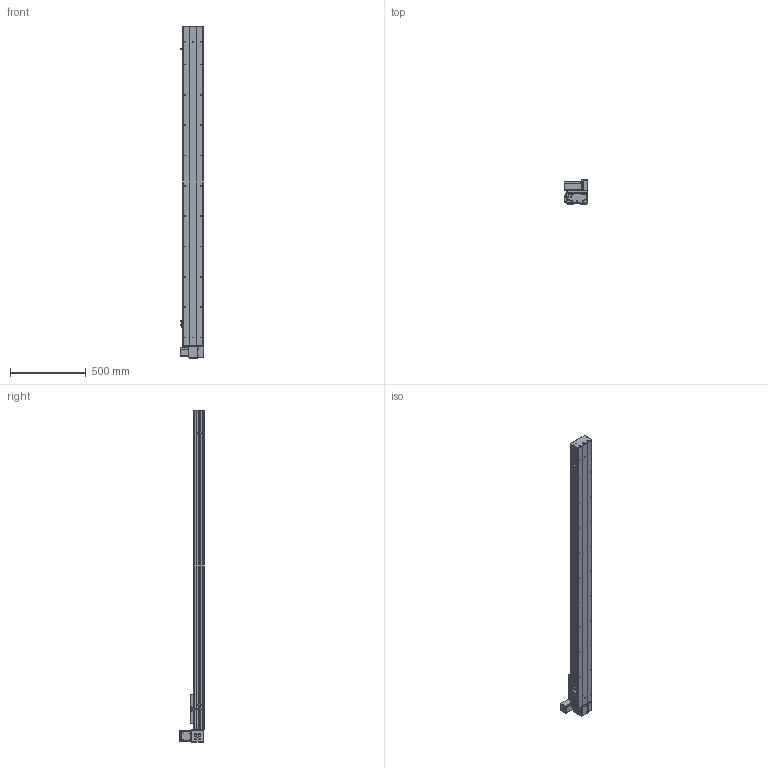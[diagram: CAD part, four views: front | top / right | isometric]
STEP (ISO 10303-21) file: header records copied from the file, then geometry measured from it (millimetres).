
FILE_DESCRIPTION (( 'STEP AP203' ), '1' );
FILE_NAME ('Y135CB-D90-S1800-UL-P400W.STEP', '2020-02-18T07:44:40', ( '微软用户' ), ( '微软中国' ), 'SwSTEP 2.0', 'SolidWorks 2017', '' );
FILE_SCHEMA (( 'CONFIG_CONTROL_DESIGN' ));
Length unit declared in the file: millimetre
Products named in the file (18): 5C--俋欶; 0B-源倛裔啣; C-雄赽釱--; 0B-萇儂楊擘啣; Y10B-耜蚾蟀諉啣----; san松下电机400不带刹车----; 00B-俋欶BM--; 5CB --掛极耜裔啣-; Y135CB-D90-S1800-UL-P400W; Y10B--々湍喘謫眊--666; C-詩湍揤踡え-陔; Y135CB-耜裔; 135CB--詩湍-CE; 135CB---遴掛极.-; Y100-135俋离換覜ん--; 35CB---喘謫眊楊擘啣; Y135C-陔俋离換覜結え-; 0B-埴倛裔啣
Assembly tree (21 placements, depth 2):
  Y135CB-D90-S1800-UL-P400W
    Y135CB-耜裔
    135CB---遴掛极.-
    35CB---喘謫眊楊擘啣
    0B-埴倛裔啣
    0B-源倛裔啣
    0B-萇儂楊擘啣
    san松下电机400不带刹车----
    5CB --掛极耜裔啣-  x2
    C-詩湍揤踡え-陔  x2
    135CB--詩湍-CE
    Y100-135俋离換覜ん--  x3
    Y135C-陔俋离換覜結え-
    5C--俋欶
    C-雄赽釱--
    Y10B-耜蚾蟀諉啣----
    00B-俋欶BM--
    Y10B--々湍喘謫眊--666
Bounding box: 157 x 158.7 x 2188 mm (x, y, z)
Volume: 6463981.7 mm3; surface area: 2550237.8 mm2
Topology: 21 solids, 21 shells, 961 faces, 2599 edges, 1722 vertices
Faces by surface type: cylinder 489, plane 456, cone 16
Entity records: 30157 total; most frequent: DIRECTION 5011, CARTESIAN_POINT 4988, ORIENTED_EDGE 4674, EDGE_CURVE 2337, AXIS2_PLACEMENT_3D 1833, VERTEX_POINT 1550, VECTOR 1345, LINE 1345
